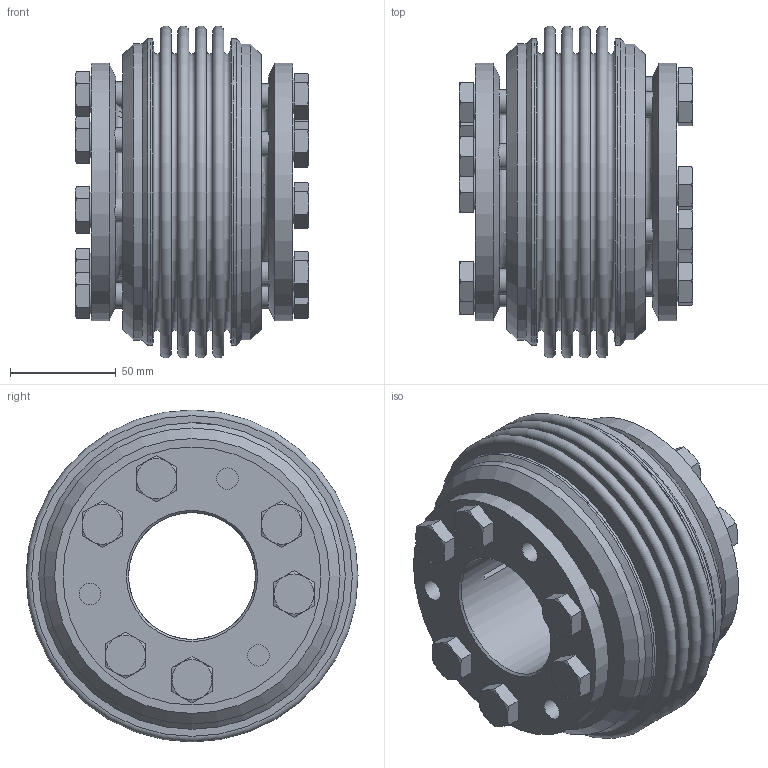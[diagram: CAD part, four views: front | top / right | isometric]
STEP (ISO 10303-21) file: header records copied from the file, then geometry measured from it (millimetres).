
FILE_DESCRIPTION(/* description */ ('Unknown','CAx-IF Rec.Pracs.---Representation and Presentation of Product Manufacturing Information (PMI)---4.0---2014-10-13','CAx-IF Rec.Pracs.---3D Tessellated Geometry---0.4---2014-09-14','2;1'),/* implementation_level */ '2;1');
FILE_NAME(/* name */ 'MB-03124769',/* time_stamp */ '2023-12-13T08:06:13+01:00',/* author */ ('Unknown'),/* organization */ ('Unknown'),/* preprocessor_version */ 'ST-DEVELOPER v18.102',/* originating_system */ 'Solid Edge',/* authorisation */ 'Unknown');
FILE_SCHEMA (('AP242_MANAGED_MODEL_BASED_3D_ENGINEERING_MIM_LF { 1 0 10303 442 1 1 4 }'));
Length unit declared in the file: millimetre
Products named in the file (1): MB-03124769
Bounding box: 110.49 x 157 x 157 mm (x, y, z)
Volume: 950918.8 mm3; surface area: 281320.2 mm2
Topology: 1 solids, 1 shells, 362 faces, 862 edges, 552 vertices
Faces by surface type: plane 168, cone 104, cylinder 68, torus 22
Full cylindrical faces by diameter (mm): 10.106 x12, 10.2 x6, 12 x12, 12.5 x12, 17.2 x12, 60 x2, 79.35 x2, 122 x2, 125 x2, 140 x2, 144.6 x2, 145 x2
Entity records: 12327 total; most frequent: CARTESIAN_POINT 2264, DIRECTION 1548, ORIENTED_EDGE 1364, AXIS2_PLACEMENT_3D 686, EDGE_CURVE 682, EDGE_LOOP 576, FACE_BOUND 576, VERTEX_POINT 490
